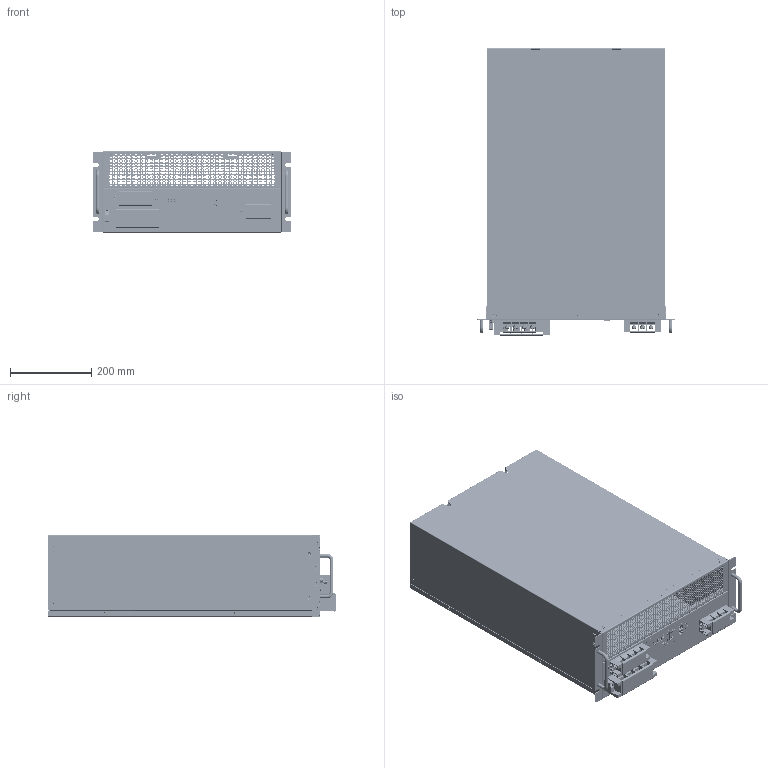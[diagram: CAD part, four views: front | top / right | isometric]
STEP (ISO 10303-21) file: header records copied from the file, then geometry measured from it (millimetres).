
FILE_DESCRIPTION (( 'STEP AP214' ), '1' );
FILE_NAME ('SP60HCG2_»ú¿ÇPS.STEP', '2025-03-20T08:27:14', ( '' ), ( '' ), 'SwSTEP 2.0', 'SolidWorks 2020', '' );
FILE_SCHEMA (( 'AUTOMOTIVE_DESIGN' ));
Length unit declared in the file: millimetre
Products named in the file (1): SP60HCG2_儂褲PS
Bounding box: 490 x 708 x 200 mm (x, y, z)
Surface area: 2417833.4 mm2 (no closed solid volume)
Topology: 0 solids, 217 shells, 16925 faces, 46135 edges, 30147 vertices
Faces by surface type: plane 13827, cylinder 1484, bspline 970, cone 612, torus 20, sphere 12
Entity records: 735374 total; most frequent: CARTESIAN_POINT 119279, ORIENTED_EDGE 92214, DIRECTION 79271, EDGE_CURVE 46111, VECTOR 39825, LINE 39825, VERTEX_POINT 30135, EDGE_LOOP 20169
